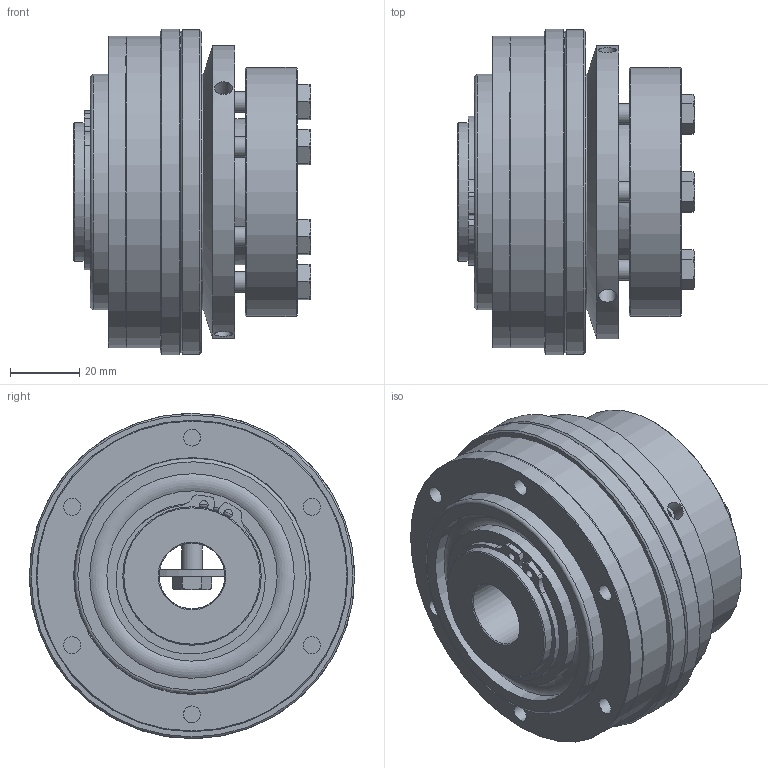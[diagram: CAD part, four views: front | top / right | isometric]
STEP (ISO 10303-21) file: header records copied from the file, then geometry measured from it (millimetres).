
FILE_DESCRIPTION( ( 'Unknown' ), '1' );
FILE_NAME( 'C:/Dokumente und Einstellungen/Sven/Desktop/hp kbk/KBK L-A-150.stp', 'Unknown', ( 'Unknown' ), ( 'Unknown' ), 'XStep 1.0', 'Unknown', ' ' );
FILE_SCHEMA( ( 'automotive_design' ) );
Length unit declared in the file: millimetre
Products named in the file (12): Assem1; Assem2; ball_bearing_-_6008_0_01; ball_bearing_-_6008_0_02; ball_bearing_-_6008_0_03; Stellring 80; Druckring 80; a_40; KBK L-A-80 Grundkörper; din_en_24017_m6x25; Flansch 80; Druckring L-A-80
Bounding box: 68.5 x 94 x 94 mm (x, y, z)
Volume: 560902.4 mm3; surface area: 212281.7 mm2
Topology: 28 solids, 28 shells, 491 faces, 1042 edges, 666 vertices
Faces by surface type: plane 201, cylinder 140, cone 118, torus 32
Full cylindrical faces by diameter (mm): 2.5 x4, 3.242 x6, 4.917 x24, 5 x8, 5.2 x6, 6 x7, 6.6 x12, 8.8 x7, 19 x2, 37.5 x2, 40 x7, 42.29 x2, 49.2 x6, 59.1 x6, 61 x2, 62 x4, 68 x5, 70 x2, 72 x2, 85 x2, 87 x2, 90 x4, 94 x2
Entity records: 5063 total; most frequent: CARTESIAN_POINT 1127, DIRECTION 828, ORIENTED_EDGE 538, AXIS2_PLACEMENT_3D 386, EDGE_LOOP 332, EDGE_CURVE 269, FACE_OUTER_BOUND 244, VERTEX_POINT 221
